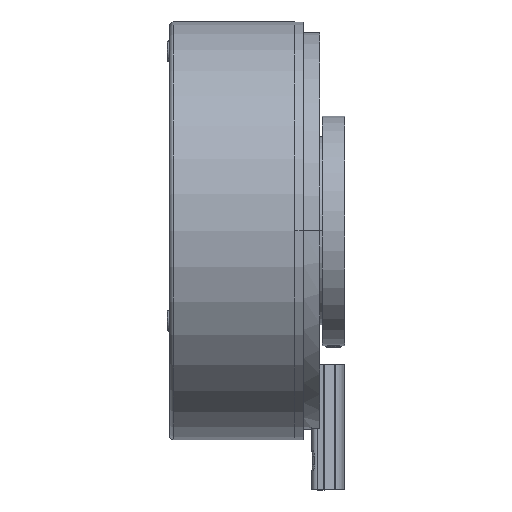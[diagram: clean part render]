
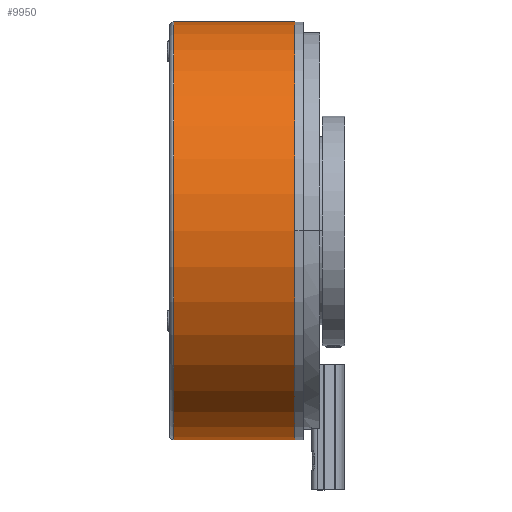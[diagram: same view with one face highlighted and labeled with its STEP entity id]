
A CAD part, top view. The second image highlights one B-rep face of the part: STEP entity #9950.
In plain terms, the highlighted cylindrical face has radius 50 mm (diameter 100 mm), a partial arc.
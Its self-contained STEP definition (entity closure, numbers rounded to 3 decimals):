
#4015 = DIRECTION ( 'NONE',  ( -1., 0., 0. ) ) ;
#4016 = VECTOR ( 'NONE', #4015, 1000. ) ;
#4017 = CARTESIAN_POINT ( 'NONE',  ( -48.581, 40.114, 10.323 ) ) ;
#4018 = LINE ( 'NONE', #4017, #4016 ) ;
#4020 = CARTESIAN_POINT ( 'NONE',  ( -47.581, 40.114, 10.323 ) ) ;
#4202 = CARTESIAN_POINT ( 'NONE',  ( -18.581, 40.114, 10.323 ) ) ;
#4205 = DIRECTION ( 'NONE',  ( -1., 0., 0. ) ) ;
#4206 = VECTOR ( 'NONE', #4205, 1000. ) ;
#4207 = CARTESIAN_POINT ( 'NONE',  ( -48.581, -59.886, 10.323 ) ) ;
#4208 = LINE ( 'NONE', #4207, #4206 ) ;
#4209 = CARTESIAN_POINT ( 'NONE',  ( -18.581, -59.886, 10.323 ) ) ;
#4926 = FACE_OUTER_BOUND ( 'NONE', #9951, .T. ) ;
#4968 = CYLINDRICAL_SURFACE ( 'NONE', #4989, 50. ) ;
#4989 = AXIS2_PLACEMENT_3D ( 'NONE', #5122, #5121, #5120 ) ;
#5120 = DIRECTION ( 'NONE',  ( 0., 1., 0. ) ) ;
#5121 = DIRECTION ( 'NONE',  ( -1., 0., 0. ) ) ;
#5122 = CARTESIAN_POINT ( 'NONE',  ( -48.581, -9.886, 10.323 ) ) ;
#5258 = DIRECTION ( 'NONE',  ( 0., 1., 0. ) ) ;
#5259 = DIRECTION ( 'NONE',  ( -1., 0., 0. ) ) ;
#5260 = CARTESIAN_POINT ( 'NONE',  ( -47.581, -9.886, 10.323 ) ) ;
#5261 = AXIS2_PLACEMENT_3D ( 'NONE', #5260, #5259, #5258 ) ;
#5262 = CIRCLE ( 'NONE', #5261, 50. ) ;
#5549 = CARTESIAN_POINT ( 'NONE',  ( -47.581, -59.886, 10.323 ) ) ;
#5962 = DIRECTION ( 'NONE',  ( 0., 1., 0. ) ) ;
#5963 = DIRECTION ( 'NONE',  ( -1., 0., 0. ) ) ;
#5964 = CARTESIAN_POINT ( 'NONE',  ( -18.581, -9.886, 10.323 ) ) ;
#5965 = AXIS2_PLACEMENT_3D ( 'NONE', #5964, #5963, #5962 ) ;
#5966 = CIRCLE ( 'NONE', #5965, 50. ) ;
#9641 = VERTEX_POINT ( 'NONE', #4020 ) ;
#9643 = EDGE_CURVE ( 'NONE', #9661, #9641, #4018, .T. ) ;
#9661 = VERTEX_POINT ( 'NONE', #4202 ) ;
#9662 = VERTEX_POINT ( 'NONE', #4209 ) ;
#9664 = EDGE_CURVE ( 'NONE', #9662, #10103, #4208, .T. ) ;
#9950 = ADVANCED_FACE ( 'NONE', ( #4926 ), #4968, .T. ) ;
#9951 = EDGE_LOOP ( 'NONE', ( #9952, #10291, #10380, #10381 ) ) ;
#9952 = ORIENTED_EDGE ( 'NONE', *, *, #9664, .F. ) ;
#10040 = EDGE_CURVE ( 'NONE', #10103, #9641, #5262, .T. ) ;
#10103 = VERTEX_POINT ( 'NONE', #5549 ) ;
#10291 = ORIENTED_EDGE ( 'NONE', *, *, #10292, .T. ) ;
#10292 = EDGE_CURVE ( 'NONE', #9662, #9661, #5966, .T. ) ;
#10380 = ORIENTED_EDGE ( 'NONE', *, *, #9643, .T. ) ;
#10381 = ORIENTED_EDGE ( 'NONE', *, *, #10040, .F. ) ;
